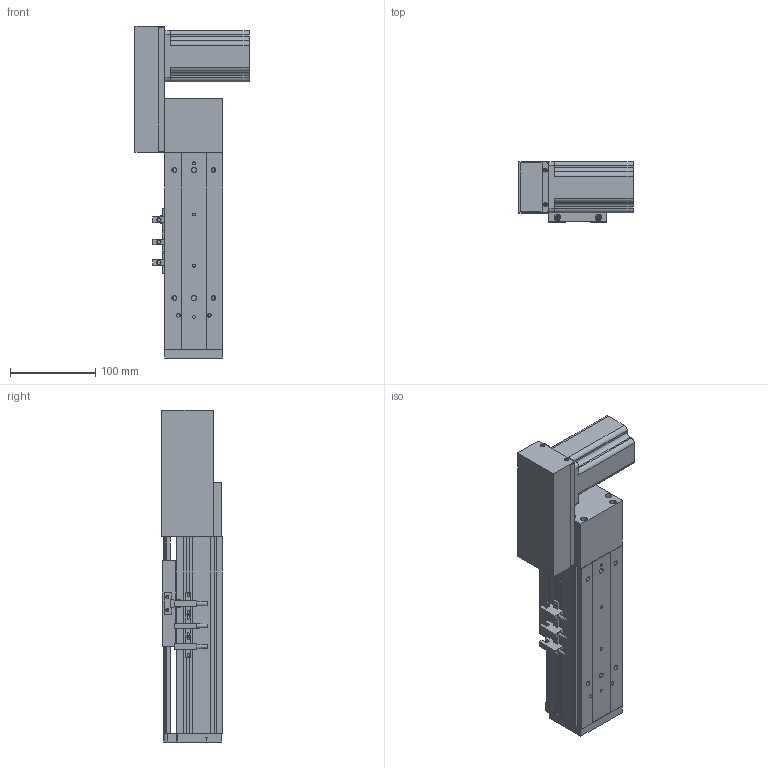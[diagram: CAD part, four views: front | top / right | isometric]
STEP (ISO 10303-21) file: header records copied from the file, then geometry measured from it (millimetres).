
FILE_DESCRIPTION (( 'STEP AP203' ), '1' );
FILE_NAME ('ML68-S50-CR.STEP', '2016-08-04T12:49:50', ( '' ), ( '' ), 'SwSTEP 2.0', 'SolidWorks 2014', '' );
FILE_SCHEMA (( 'CONFIG_CONTROL_DESIGN' ));
Length unit declared in the file: millimetre
Products named in the file (11): 葩璃 ML68菁釱^ML68-S50-CR; QS68酘衵殏萇儂啣; ML68奻裔^ML68-S50-CR; QS68左右折电机板罩子; 60換覜結え; 換覜ん; ML68傷啣; ML68雄赽釱; ML68-S50-CR; 三协电机MH201N2_預設; ML68-BL傷啣
Assembly tree (12 placements, depth 2):
  ML68-S50-CR
    葩璃 ML68菁釱^ML68-S50-CR
    ML68奻裔^ML68-S50-CR
    ML68傷啣
    ML68-BL傷啣
    60換覜結え
    換覜ん  x3
    三协电机MH201N2_預設
    ML68雄赽釱
    QS68酘衵殏萇儂啣
    QS68左右折电机板罩子
Bounding box: 133.5 x 70.5 x 388.5 mm (x, y, z)
Volume: 1031798.8 mm3; surface area: 314560.4 mm2
Topology: 12 solids, 12 shells, 785 faces, 2150 edges, 1363 vertices
Faces by surface type: cylinder 350, plane 343, cone 92
Entity records: 24365 total; most frequent: CARTESIAN_POINT 4377, DIRECTION 4042, ORIENTED_EDGE 3808, EDGE_CURVE 1904, AXIS2_PLACEMENT_3D 1448, VERTEX_POINT 1251, VECTOR 1146, LINE 1146
